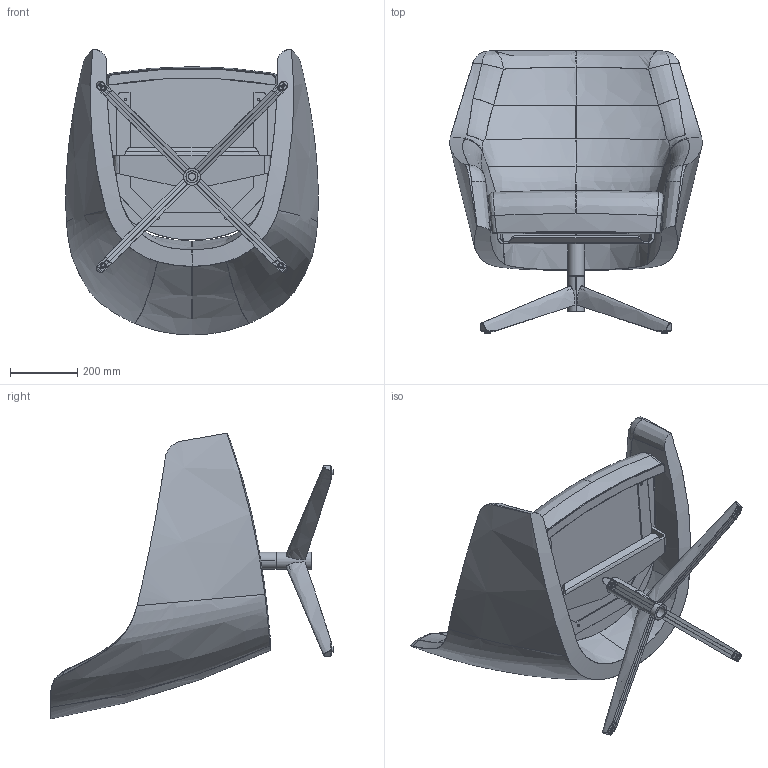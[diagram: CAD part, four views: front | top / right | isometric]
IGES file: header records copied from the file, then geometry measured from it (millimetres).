
Start section: SolidWorks IGES file using analytic representation for surfaces
Global section: file name: C:\Users\Kentie3D\Projecten\2014\1434 Montis EPS en 3D files\Puk low\3D files\IGES\Puk low.IGS; native system: SolidWorks 2014; preprocessor: SolidWorks 2014; author: Kentie3D; date: 141114.183348; units: millimetre
Bounding box: 749.89 x 840.46 x 848.96 mm (x, y, z)
Surface area: 3020401.2 mm2 (no closed solid volume)
Topology: 0 solids, 0 shells, 519 faces, 7460 edges, 7460 vertices
Faces by surface type: bspline 301, revolution 218
